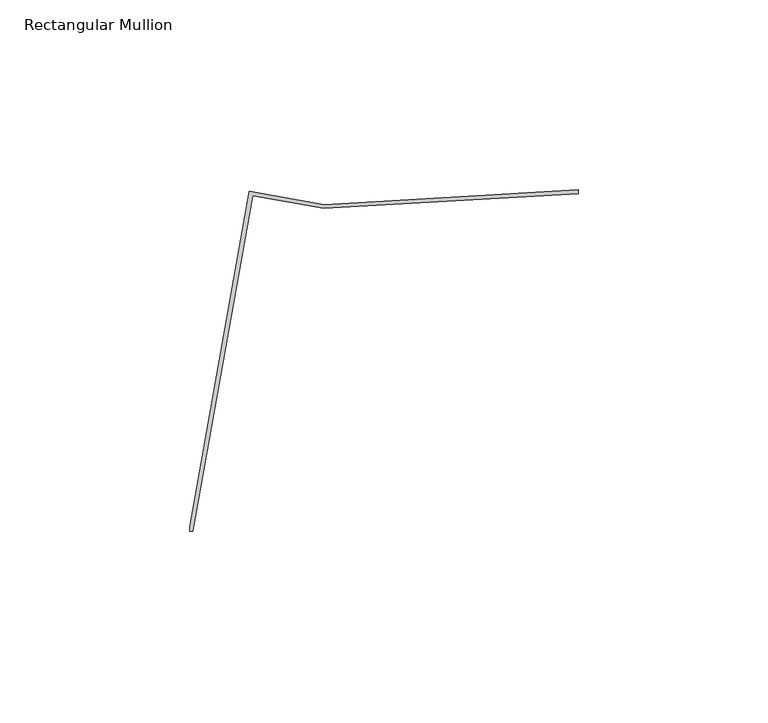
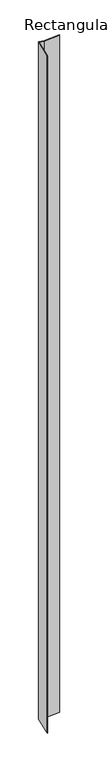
"""IFC4 building model written with IfcOpenShell, lengths in millimetres: member geometry, Rectangular Mullion : CD_NINELINE_Box Start."""

from ifc_helpers import new_model, si_unit, frame, origin, place, context, project, spatial, polyline, outline, extrude, source, transform, mapped, element, save


def rectangular_mullion_1727c332(model_context):
    return source(origin(), model_context, "Body", "SweptSolid", [
        extrude(outline(polyline([(-102.3753074, 0.9999629), (-86.6349168, 89.559659), (-66.9630913, 86.0632353), (-0.0587036, 89.9975475), (0.0, 88.9992721), (-67.0220447, 85.0580411), (-85.8253425, 88.4000947), (-101.5373726, -3.78e-05), (-102.3753074, -3.78e-05), (-102.3753074, 0.9999629)])), frame((0.0, 0.0, -2942.0), z_axis=(0.0, 0.0, 1.0), x_axis=(1.0, 0.0, 0.0)), (0.0, 0.0, 1.0), 2942.0),
    ])


if __name__ == "__main__":
    model = new_model("IFC4")
    model_context = context("Model", 3, world=origin())
    ifc_project = project(units=[si_unit("LENGTHUNIT", "METRE", prefix="MILLI")], contexts=[model_context])
    site = spatial("IfcSite", under=ifc_project)
    building = spatial("IfcBuilding", under=site)
    placement = place(None, origin())
    rectangular_mullion_shape = rectangular_mullion_1727c332(model_context)
    element("IfcMember", 1, ObjectType="Rectangular Mullion : CD_NINELINE_Box Start", at=placement, inside=building, context=model_context, shape_type="MappedRepresentation", body=[
        mapped(rectangular_mullion_shape, transform((0.0, 0.0, 0.0), x_axis=(1.0, 0.0, 0.0), y_axis=(0.0, 1.0, 0.0), z_axis=(0.0, 0.0, 1.0))),
    ])
    save(model, "model.ifc")
